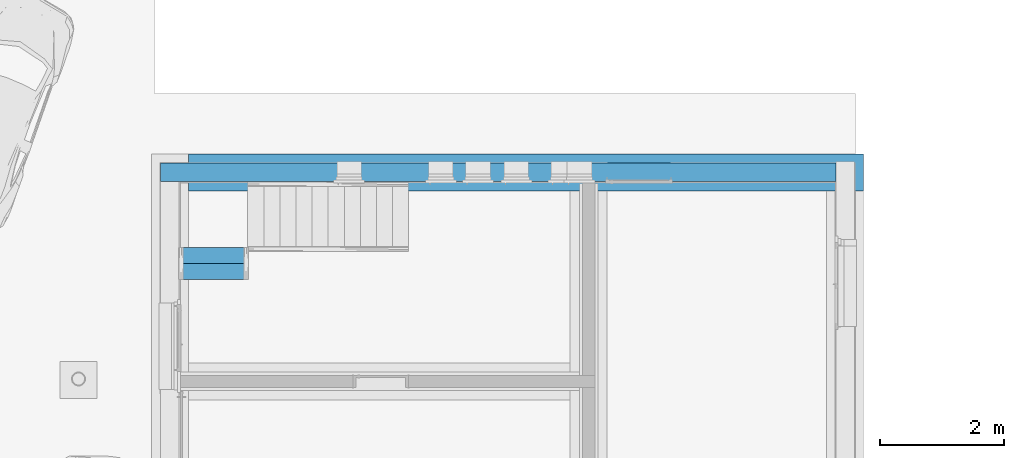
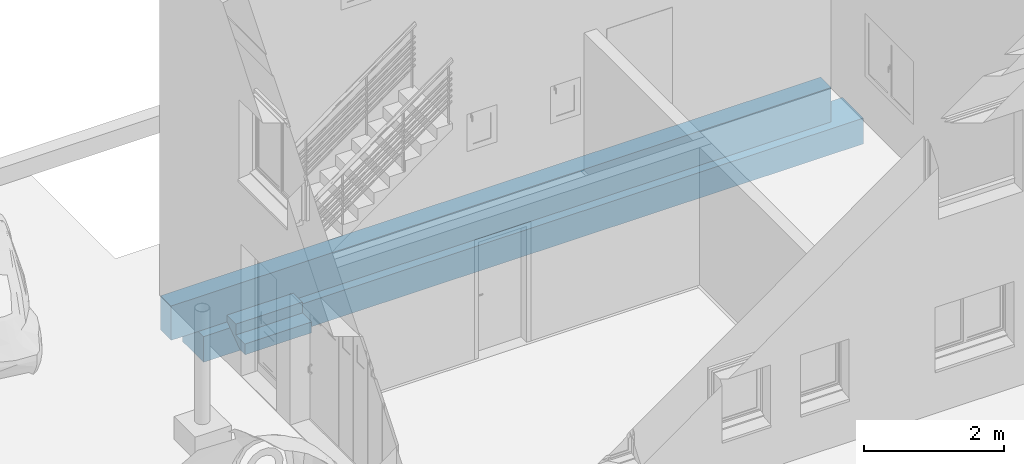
# One storey, part 9 of 20: 2 walls, 1 stair flight, 1 opening, 1 element without a shape of its own.
"""IFC2X3 building model written with IfcOpenShell, lengths in metres."""

from ifc_helpers import new_model, entity, si_unit, converted_unit, derived_unit, direction, frame, frame_2d, origin, place, context, subcontext, project, spatial, rectangle, extrude, faceted_brep, material, layer, layer_set, layer_usage, type_object, element, aggregate, save


model = new_model("IFC2X3")

# Units and contexts
model_context = context("Model", 3, precision=1e-05, world=origin(), true_north=direction((6.12303176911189e-17, 1.0)))
body_context = subcontext(model_context, "Body", "Model", "MODEL_VIEW")
ifc_project = project(units=[si_unit("LENGTHUNIT", "METRE"), si_unit("AREAUNIT", "SQUARE_METRE"), si_unit("VOLUMEUNIT", "CUBIC_METRE"), converted_unit("PLANEANGLEUNIT", "DEGREE", entity("IfcRatioMeasure", 0.0174532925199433), si_unit("PLANEANGLEUNIT", "RADIAN"), dimensions=[0, 0, 0, 0, 0, 0, 0]), si_unit("MASSUNIT", "GRAM", prefix="KILO"), derived_unit("MASSDENSITYUNIT", [(si_unit("MASSUNIT", "GRAM", prefix="KILO"), 1), (si_unit("LENGTHUNIT", "METRE"), -3)]), derived_unit("MOMENTOFINERTIAUNIT", [(si_unit("LENGTHUNIT", "METRE"), 4)]), si_unit("TIMEUNIT", "SECOND"), si_unit("FREQUENCYUNIT", "HERTZ"), si_unit("THERMODYNAMICTEMPERATUREUNIT", "DEGREE_CELSIUS"), derived_unit("THERMALTRANSMITTANCEUNIT", [(si_unit("MASSUNIT", "GRAM", prefix="KILO"), 1), (si_unit("THERMODYNAMICTEMPERATUREUNIT", "KELVIN"), -1), (si_unit("TIMEUNIT", "SECOND"), -3)]), derived_unit("VOLUMETRICFLOWRATEUNIT", [(si_unit("LENGTHUNIT", "METRE"), 3), (si_unit("TIMEUNIT", "SECOND"), -1)]), si_unit("ELECTRICCURRENTUNIT", "AMPERE"), si_unit("ELECTRICVOLTAGEUNIT", "VOLT"), si_unit("POWERUNIT", "WATT"), si_unit("FORCEUNIT", "NEWTON", prefix="KILO"), si_unit("ILLUMINANCEUNIT", "LUX"), si_unit("LUMINOUSFLUXUNIT", "LUMEN"), si_unit("LUMINOUSINTENSITYUNIT", "CANDELA"), derived_unit("USERDEFINED", [(si_unit("MASSUNIT", "GRAM", prefix="KILO"), -1), (si_unit("LENGTHUNIT", "METRE"), -2), (si_unit("TIMEUNIT", "SECOND"), 3), (si_unit("LUMINOUSFLUXUNIT", "LUMEN"), 1)]), derived_unit("LINEARVELOCITYUNIT", [(si_unit("LENGTHUNIT", "METRE"), 1), (si_unit("TIMEUNIT", "SECOND"), -1)]), si_unit("PRESSUREUNIT", "PASCAL"), derived_unit("USERDEFINED", [(si_unit("LENGTHUNIT", "METRE"), -2), (si_unit("MASSUNIT", "GRAM", prefix="KILO"), 1), (si_unit("TIMEUNIT", "SECOND"), -2)]), derived_unit("LINEARFORCEUNIT", [(si_unit("MASSUNIT", "GRAM", prefix="KILO"), 1), (si_unit("LENGTHUNIT", "METRE"), 1), (si_unit("TIMEUNIT", "SECOND"), -2), (si_unit("LENGTHUNIT", "METRE"), -1)]), derived_unit("PLANARFORCEUNIT", [(si_unit("MASSUNIT", "GRAM", prefix="KILO"), 1), (si_unit("LENGTHUNIT", "METRE"), 1), (si_unit("TIMEUNIT", "SECOND"), -2), (si_unit("LENGTHUNIT", "METRE"), -2)])], contexts=[model_context])

# Site, building, storey
site_placement = place(None, origin())
site = spatial("IfcSite", under=ifc_project, at=site_placement, Name="Surface", CompositionType="ELEMENT")
building_placement = place(site_placement, origin())
building = spatial("IfcBuilding", under=site, at=building_placement, CompositionType="ELEMENT")
storey_placement = place(building_placement, origin())
storey = spatial("IfcBuildingStorey", under=building, at=storey_placement, Name="Niveau rdc", CompositionType="ELEMENT", Elevation=-1.94916083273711e-14)

# Wall, opening
ifc_material_1 = material(Name="Maçonnerie - Voile BA")
ifc_layer_1 = layer(ifc_material_1, 0.3)
ifc_layer_set_1 = layer_set([ifc_layer_1], Name="Mur de base:Ext. Voile 30")
ifc_layer_usage_1 = layer_usage(ifc_layer_set_1, "AXIS2", "NEGATIVE", 0.15)
wall_type_1 = type_object("IfcWallType", Name="Mur de base:Ext. Voile 30", PredefinedType="STANDARD", material=ifc_layer_set_1)
wall_1_placement = place(storey_placement, frame((12.4693960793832, 7.17925810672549, -0.6), z_axis=(0.0, 0.0, 1.0), x_axis=(-1.0, 0.0, 0.0)))
wall_1 = element("IfcWallStandardCase", 1, at=wall_1_placement, inside=storey, type_object=wall_type_1, material=ifc_layer_usage_1, Name="Mur de base:Ext. Voile 30", ObjectType="Mur de base:Ext. Voile 30", context=body_context, shape_type="SweptSolid", body=[
    extrude(rectangle(XDim=10.905, YDim=0.299999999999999, at=frame_2d((5.4525, 1.38777878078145e-17), x_axis=(-1.0, 0.0))), origin(), (0.0, 0.0, 1.0), 0.6),
])
opening_placement = place(wall_1_placement, frame((3.71999999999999, 0.470000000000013, 0.600000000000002)))
element("IfcOpeningElement", 2, at=opening_placement, cuts=wall_1, Name="Mur de base:Ext. Voile 30", ObjectType="Opening", context=body_context, shape_type="Brep", body=[
    faceted_brep([(-1.05, 0.0, 2.30999999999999), (-1.05, -0.300000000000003, 2.30999999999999), (-0.0300000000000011, -0.3, 2.30999999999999), (-0.0300000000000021, 0.0, 2.30999999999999), (-1.05, -0.930000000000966, 0.0), (-1.05, -0.400000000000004, 0.0), (-1.065, -0.400000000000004, 0.0), (-1.065, -0.357000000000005, 0.0), (-1.08, -0.357000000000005, 0.0), (-1.08, -0.300000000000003, 0.0), (-1.05, -0.300000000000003, 0.0), (-1.05, 0.0, 0.0), (-0.0300000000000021, 0.0, 0.0), (-0.0300000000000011, -0.3, 0.0), (0.0, -0.3, 0.0), (0.0, -0.357000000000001, 0.0), (-0.015, -0.357000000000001, 0.0), (-0.0149999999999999, -0.400000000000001, 0.0), (-0.0300000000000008, -0.400000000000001, 0.0), (-0.0299999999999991, -0.930000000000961, 0.0), (-1.05, -0.930000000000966, 2.30999999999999), (-1.05, -0.400000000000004, 2.30999999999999), (-0.0299999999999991, -0.930000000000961, 2.30999999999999), (-1.065, -0.357000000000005, 2.32499999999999), (-0.0150000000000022, -0.357000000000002, 2.32499999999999), (0.0, -0.357000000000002, 2.33999999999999), (-1.08, -0.357000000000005, 2.33999999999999), (-1.08, -0.300000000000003, 2.33999999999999), (0.0, -0.3, 2.33999999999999), (-0.0150000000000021, -0.400000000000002, 2.32499999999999), (-1.065, -0.400000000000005, 2.32499999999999), (-0.0300000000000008, -0.400000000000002, 2.30999999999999)], [[[0, 1, 2, 3]], [[4, 5, 6, 7, 8, 9, 10, 11, 12, 13, 14, 15, 16, 17, 18, 19]], [[20, 21, 5, 4]], [[20, 4, 19, 22]], [[3, 2, 13, 12]], [[3, 12, 11, 0]], [[8, 7, 23, 24, 16, 15, 25, 26]], [[13, 2, 1, 10, 9, 27, 28, 14]], [[14, 28, 25, 15]], [[25, 28, 27, 26]], [[26, 27, 9, 8]], [[16, 24, 29, 17]], [[17, 29, 30, 6, 5, 21, 31, 18]], [[24, 23, 30, 29]], [[30, 23, 7, 6]], [[19, 18, 31, 22]], [[11, 10, 1, 0]], [[22, 31, 21, 20]]]),
])

# Wall
ifc_layer_2 = layer(ifc_material_1, 0.6)
ifc_layer_set_2 = layer_set([ifc_layer_2], Name="Mur de base:fondations 60*45")
ifc_layer_usage_2 = layer_usage(ifc_layer_set_2, "AXIS2", "NEGATIVE", 0.3)
wall_type_2 = type_object("IfcWallType", Name="Mur de base:fondations 60*45", PredefinedType="STANDARD", material=ifc_layer_set_2)
wall_2_placement = place(storey_placement, frame((2.01439607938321, 7.17925810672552, -1.05)))
element("IfcWallStandardCase", 3, at=wall_2_placement, inside=storey, type_object=wall_type_2, material=ifc_layer_usage_2, Name="Mur de base:fondations 60*45", ObjectType="Mur de base:fondations 60*45", context=body_context, shape_type="SweptSolid", body=[
    extrude(rectangle(XDim=10.9, YDim=0.6, at=frame_2d((5.45, 0.0), x_axis=(-1.0, 0.0))), origin(), (0.0, 0.0, 1.0), 0.45),
])

# Stair, stair flight
stair_placement = place(storey_placement, origin())
stair = element("IfcStair", 4, at=stair_placement, inside=storey, Name="Escalier coulé sur place:Escalier", ObjectType="Escalier coulé sur place:Monobloc", ShapeType="NOTDEFINED")
ifc_material_2 = material(Name="Maçonnerie - Béton")
stair_flight_type = type_object("IfcStairFlightType", Name="Volée monobloc:Profondeur de structure 80 mm", PredefinedType="STRAIGHT")
stair_flight_placement = place(stair_placement, frame((1.87197986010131, 5.44723837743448, 0.0)))
stair_flight = element("IfcStairFlight", 5, at=stair_flight_placement, type_object=stair_flight_type, material=ifc_material_2, Name="Escalier coulé sur place:Escalier:317581 Run 1", ObjectType="Volée monobloc:Profondeur de structure 80 mm", NumberOfRiser=3, NumberOfTreads=2, RiserHeight=0.621016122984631, TreadLength=0.853018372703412, context=body_context, shape_type="Brep", body=[
    faceted_brep([(0.0, 0.260000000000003, 0.189285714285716), (0.0, 0.0, 0.189285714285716), (1.1, 0.0, 0.189285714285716), (1.1, 0.259999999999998, 0.189285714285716), (0.0, 0.260000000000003, 0.0903306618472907), (0.0, 0.135923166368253, 0.0), (0.0, 0.0, 0.0), (1.1, 0.0, 0.0), (1.1, 0.135923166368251, 0.0), (1.1, 0.26, 0.090330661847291), (0.0, 0.520000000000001, 0.378571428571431), (0.0, 0.26, 0.378571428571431), (1.1, 0.259999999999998, 0.378571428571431), (1.1, 0.519999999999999, 0.378571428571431), (0.0, 0.520000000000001, 0.279616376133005), (1.1, 0.519999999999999, 0.279616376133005)], [[[0, 1, 2, 3]], [[1, 0, 4, 5, 6]], [[2, 1, 6, 7]], [[3, 2, 7, 8, 9]], [[10, 11, 12, 13]], [[11, 10, 14, 4, 0]], [[0, 3, 12, 11]], [[13, 12, 3, 9, 15]], [[10, 13, 15, 14]], [[7, 6, 5, 8]], [[8, 5, 4, 14, 15, 9]]]),
])
aggregate(stair, [stair_flight])

save(model, "model.ifc")
